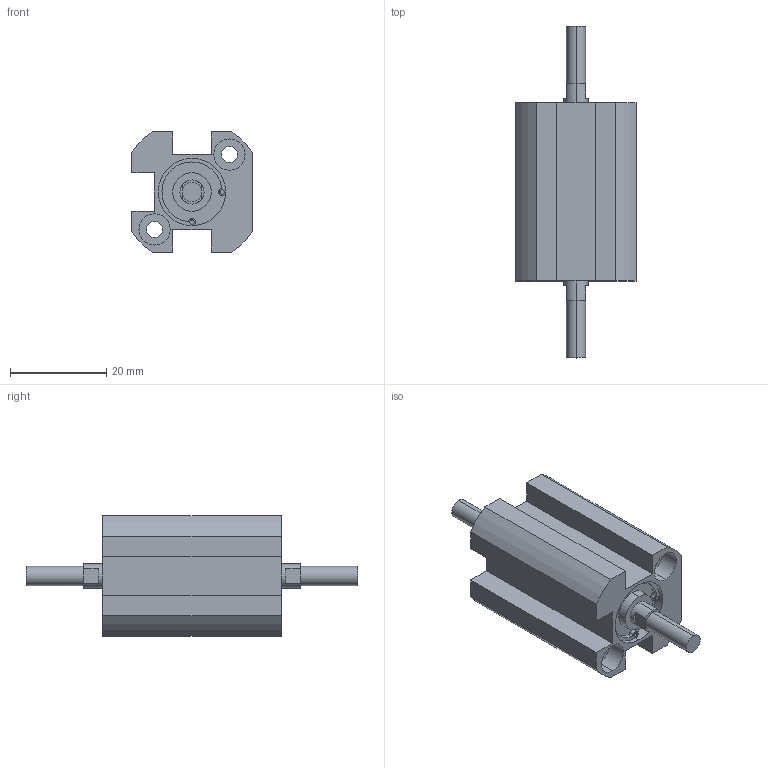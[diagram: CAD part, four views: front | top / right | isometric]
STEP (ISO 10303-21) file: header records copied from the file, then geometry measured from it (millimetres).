
FILE_DESCRIPTION (( 'STEP AP203' ), '1' );
FILE_NAME ('XC#M7-10D-10.STEP', '2016-05-23T08:53:51', ( '' ), ( '' ), 'SwSTEP 2.0', 'SolidWorks 2014', '' );
FILE_SCHEMA (( 'CONFIG_CONTROL_DESIGN' ));
Length unit declared in the file: millimetre
Products named in the file (1): XC#M7-10D-10
Bounding box: 25 x 69 x 25 mm (x, y, z)
Volume: 16484.8 mm3; surface area: 7304.9 mm2
Topology: 1 solids, 1 shells, 108 faces, 266 edges, 172 vertices
Faces by surface type: cylinder 58, plane 46, cone 4
Entity records: 3297 total; most frequent: DIRECTION 610, CARTESIAN_POINT 543, ORIENTED_EDGE 524, EDGE_CURVE 262, AXIS2_PLACEMENT_3D 239, VERTEX_POINT 172, VECTOR 132, LINE 132
